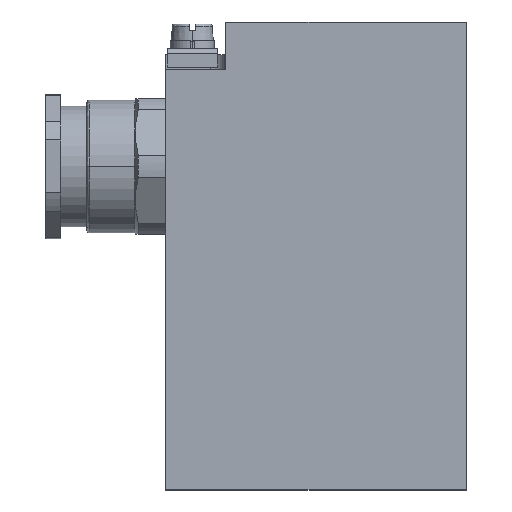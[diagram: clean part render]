
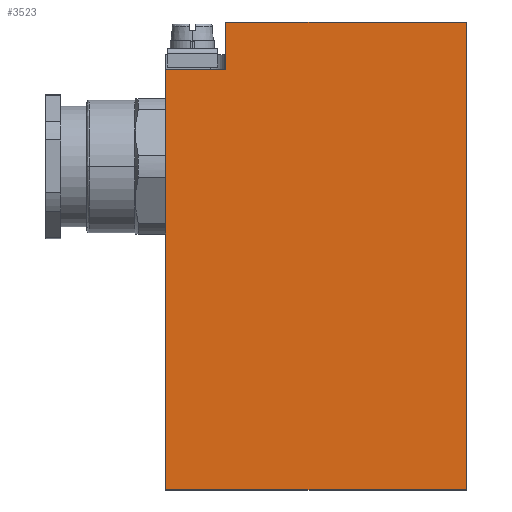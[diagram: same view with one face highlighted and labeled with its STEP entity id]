
A CAD part, top view. The second image highlights one B-rep face of the part: STEP entity #3523.
In plain terms, the highlighted planar face has unit normal (0, 0, 1).
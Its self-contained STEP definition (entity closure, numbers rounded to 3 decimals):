
#85 = VERTEX_POINT ( 'NONE', #1488 ) ;
#782 = CARTESIAN_POINT ( 'NONE',  ( -60., 61.3, 22.5 ) ) ;
#1488 = CARTESIAN_POINT ( 'NONE',  ( 0., -22.5, 22.5 ) ) ;
#1839 = FACE_OUTER_BOUND ( 'NONE', #6974, .T. ) ;
#2167 = LINE ( 'NONE', #13557, #8495 ) ;
#3488 = EDGE_CURVE ( 'NONE', #6642, #12460, #2167, .T. ) ;
#3523 = ADVANCED_FACE ( 'NONE', ( #1839 ), #13134, .F. ) ;
#3687 = CARTESIAN_POINT ( 'NONE',  ( -60., -22.5, 22.5 ) ) ;
#3809 = DIRECTION ( 'NONE',  ( 0., -1., 0. ) ) ;
#4637 = LINE ( 'NONE', #3687, #4654 ) ;
#4654 = VECTOR ( 'NONE', #3809, 1000. ) ;
#4834 = AXIS2_PLACEMENT_3D ( 'NONE', #12868, #12865, #12847 ) ;
#5320 = ORIENTED_EDGE ( 'NONE', *, *, #6262, .T. ) ;
#5515 = DIRECTION ( 'NONE',  ( 0., -1., 0. ) ) ;
#5559 = CARTESIAN_POINT ( 'NONE',  ( 0., -22.5, 22.5 ) ) ;
#5694 = EDGE_CURVE ( 'NONE', #12816, #6642, #9280, .T. ) ;
#6262 = EDGE_CURVE ( 'NONE', #12816, #13378, #4637, .T. ) ;
#6507 = CARTESIAN_POINT ( 'NONE',  ( 0., -22.5, 22.5 ) ) ;
#6567 = DIRECTION ( 'NONE',  ( -1., 0., 0. ) ) ;
#6642 = VERTEX_POINT ( 'NONE', #13095 ) ;
#6974 = EDGE_LOOP ( 'NONE', ( #13568, #13075, #12950, #5320, #13882, #14050 ) ) ;
#7176 = DIRECTION ( 'NONE',  ( 0., 1., 0. ) ) ;
#7258 = LINE ( 'NONE', #5559, #7317 ) ;
#7317 = VECTOR ( 'NONE', #5515, 1000. ) ;
#7600 = VECTOR ( 'NONE', #6567, 1000. ) ;
#7710 = LINE ( 'NONE', #6507, #7600 ) ;
#8495 = VECTOR ( 'NONE', #7176, 1000. ) ;
#8690 = EDGE_CURVE ( 'NONE', #13428, #12460, #10627, .T. ) ;
#8738 = DIRECTION ( 'NONE',  ( 1., 0., 0. ) ) ;
#9192 = EDGE_CURVE ( 'NONE', #85, #13378, #7710, .T. ) ;
#9246 = VECTOR ( 'NONE', #8738, 1000. ) ;
#9280 = LINE ( 'NONE', #782, #9246 ) ;
#9481 = EDGE_CURVE ( 'NONE', #13428, #85, #7258, .T. ) ;
#9560 = CARTESIAN_POINT ( 'NONE',  ( 0., 70.8, 22.5 ) ) ;
#10275 = CARTESIAN_POINT ( 'NONE',  ( -60., -22.5, 22.5 ) ) ;
#10279 = DIRECTION ( 'NONE',  ( -1., 0., 0. ) ) ;
#10582 = VECTOR ( 'NONE', #10279, 1000. ) ;
#10627 = LINE ( 'NONE', #11667, #10582 ) ;
#11667 = CARTESIAN_POINT ( 'NONE',  ( 0., 70.8, 22.5 ) ) ;
#12173 = CARTESIAN_POINT ( 'NONE',  ( -60., 61.3, 22.5 ) ) ;
#12460 = VERTEX_POINT ( 'NONE', #13256 ) ;
#12816 = VERTEX_POINT ( 'NONE', #12173 ) ;
#12847 = DIRECTION ( 'NONE',  ( -1., 0., 0. ) ) ;
#12865 = DIRECTION ( 'NONE',  ( 0., 0., -1. ) ) ;
#12868 = CARTESIAN_POINT ( 'NONE',  ( 0., -22.5, 22.5 ) ) ;
#12950 = ORIENTED_EDGE ( 'NONE', *, *, #5694, .F. ) ;
#13075 = ORIENTED_EDGE ( 'NONE', *, *, #3488, .F. ) ;
#13095 = CARTESIAN_POINT ( 'NONE',  ( -48., 61.3, 22.5 ) ) ;
#13134 = PLANE ( 'NONE',  #4834 ) ;
#13256 = CARTESIAN_POINT ( 'NONE',  ( -48., 70.8, 22.5 ) ) ;
#13378 = VERTEX_POINT ( 'NONE', #10275 ) ;
#13428 = VERTEX_POINT ( 'NONE', #9560 ) ;
#13557 = CARTESIAN_POINT ( 'NONE',  ( -48., 61.3, 22.5 ) ) ;
#13568 = ORIENTED_EDGE ( 'NONE', *, *, #8690, .T. ) ;
#13882 = ORIENTED_EDGE ( 'NONE', *, *, #9192, .F. ) ;
#14050 = ORIENTED_EDGE ( 'NONE', *, *, #9481, .F. ) ;
